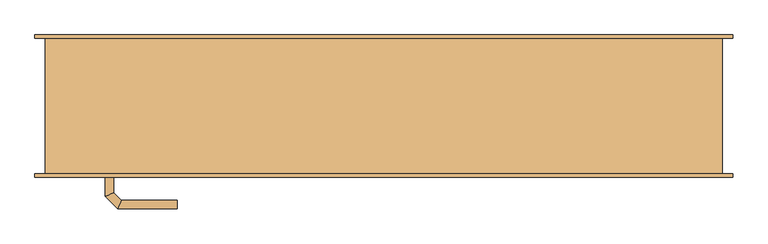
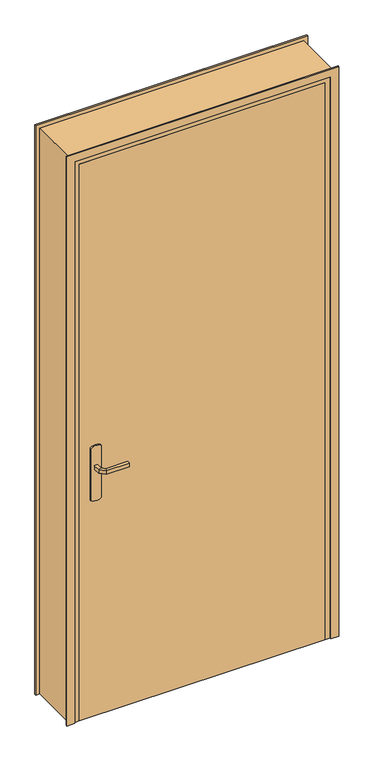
"""IFC4 building model written with IfcOpenShell, lengths in millimetres: door geometry, @_Int. Simple : @_PP (0.93m x 2.25)."""

from ifc_helpers import new_model, si_unit, point, frame, frame_2d, origin, origin_with_axes, place, context, project, spatial, polyline, circle_curve, ellipse_curve, trimmed, segment, composite_curve, outline, extrude, faceted_brep, source, transform, mapped, element, save
from ifc_brep_helpers import plane_surface, cylinder_surface, advanced_brep


def door_82d9676e(model_context):
    return source(origin(), model_context, "Body", "SolidModel", [
        extrude(outline(composite_curve([segment(trimmed(circle_curve(frame_2d((904.6410162, -440.0)), 40.0), [point((870.0, -460.0))], [point((870.0, -420.0))], False, "CARTESIAN"), True, "CONTINUOUS"), segment(polyline([(870.0, -420.0), (1080.0, -420.0)]), True, "CONTINUOUS"), segment(trimmed(circle_curve(frame_2d((1045.3589838, -440.0)), 40.0), [point((1080.0, -420.0))], [point((1080.0, -460.0))], False, "CARTESIAN"), True, "CONTINUOUS"), segment(polyline([(1080.0, -460.0), (870.0, -460.0)]), True, "CONTINUOUS")], self_intersect=False)), frame((0.0, -105.0, 0.0), z_axis=(0.0, 1.0, 0.0), x_axis=(0.0, 0.0, 1.0)), (0.0, 0.0, 1.0), 5.0),
        extrude(outline(composite_curve([segment(trimmed(circle_curve(frame_2d((1045.3589838, -440.0)), 40.0), [point((1080.0, -420.0))], [point((1080.0, -460.0))], False, "CARTESIAN"), True, "CONTINUOUS"), segment(polyline([(1080.0, -460.0), (870.0, -460.0)]), True, "CONTINUOUS"), segment(trimmed(circle_curve(frame_2d((904.6410162, -440.0)), 40.0), [point((870.0, -460.0))], [point((870.0, -420.0))], False, "CARTESIAN"), True, "CONTINUOUS"), segment(polyline([(870.0, -420.0), (1080.0, -420.0)]), True, "CONTINUOUS")], self_intersect=False)), frame((0.0, -60.0, 0.0), z_axis=(0.0, 1.0, 0.0), x_axis=(0.0, 0.0, 1.0)), (0.0, 0.0, 1.0), 5.0),
        advanced_brep(
        [(-446.0, -105.0, 1007.0), (-434.0, -105.0, 1007.0), (-434.0, -105.0, 993.0), (-446.0, -105.0, 993.0), (-446.0, -132.6509507, 1007.0), (-434.0, -127.680388, 1007.0), (-434.0, -127.680388, 993.0), (-446.0, -132.6509507, 993.0), (-427.62279, -151.0281607, 1007.0), (-422.6522273, -139.0281607, 1007.0), (-422.6522273, -139.0281607, 993.0), (-427.62279, -151.0281607, 993.0), (-339.9813594, -151.0281607, 1007.0), (-339.9813594, -151.0281607, 993.0), (-339.9813594, -139.0281607, 993.0), (-339.9813594, -139.0281607, 1007.0)],
        [
            (0, 1, circle_curve(frame((-440.0, -105.0, 986.9542278), z_axis=(0.0, 1.0, 0.0), x_axis=(1.0, 0.0, 0.0)), 20.9244589)),
            (1, 2),
            (2, 3, circle_curve(frame((-440.0, -105.0, 1013.0457722), z_axis=(0.0, 1.0, 0.0), x_axis=(1.0, 0.0, 0.0)), 20.9244589)),
            (3, 0),
            (0, 4),
            (4, 5, ellipse_curve(frame((-440.0, -130.1656693, 986.9542278), z_axis=(-0.3826834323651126, 0.9238795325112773, 0.0), x_axis=(0.9238795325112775, 0.38268343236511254, 0.0)), 22.6484711, 20.9244589)),
            (5, 1),
            (5, 6),
            (6, 2),
            (6, 7, ellipse_curve(frame((-440.0, -130.1656693, 1013.0457722), z_axis=(-0.3826834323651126, 0.9238795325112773, 0.0), x_axis=(0.9238795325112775, 0.38268343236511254, 0.0)), 22.6484711, 20.9244589)),
            (7, 3),
            (7, 4),
            (4, 8),
            (8, 9, ellipse_curve(frame((-425.1375086, -145.0281607, 986.9542278), z_axis=(-0.9238795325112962, 0.38268343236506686, 0.0), x_axis=(0.3826834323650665, 0.9238795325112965, 0.0)), 22.6484711, 20.9244589)),
            (9, 5),
            (9, 10),
            (10, 6),
            (10, 11, ellipse_curve(frame((-425.1375086, -145.0281607, 1013.0457722), z_axis=(-0.9238795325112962, 0.38268343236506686, 0.0), x_axis=(0.3826834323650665, 0.9238795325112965, 0.0)), 22.6484711, 20.9244589)),
            (11, 7),
            (11, 8),
            (12, 13),
            (13, 14, circle_curve(frame((-339.9813594, -145.0281607, 1013.0457722), z_axis=(1.0, 0.0, 0.0), x_axis=(0.0, 1.0, 0.0)), 20.9244589)),
            (14, 15),
            (15, 12, circle_curve(frame((-339.9813594, -145.0281607, 986.9542278), z_axis=(1.0, 0.0, 0.0), x_axis=(0.0, 1.0, 0.0)), 20.9244589)),
            (8, 12),
            (15, 9),
            (14, 10),
            (13, 11),
        ],
        [
            plane_surface(frame((-449.2195445, -105.0, 1000.0), z_axis=(0.0, 1.0, 0.0), x_axis=(0.0, 0.0, -1.0))),
            cylinder_surface(frame((-440.0, -105.0, 986.9542278), z_axis=(0.0, 1.0, 0.0), x_axis=(1.0, 0.0, 0.0)), 20.9244589),
            plane_surface(frame((-434.0, -105.0, 1007.0), z_axis=(1.0, 0.0, 0.0), x_axis=(0.0, -1.0, 0.0))),
            cylinder_surface(frame((-440.0, -105.0, 1013.0457722), z_axis=(0.0, 1.0, 0.0), x_axis=(1.0, 0.0, 0.0)), 20.9244589),
            plane_surface(frame((-446.0, -105.0, 993.0), z_axis=(-1.0, 0.0, 0.0), x_axis=(0.0, -1.0, 0.0))),
            cylinder_surface(frame((-440.0, -130.1656693, 986.9542278), z_axis=(-0.7071067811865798, 0.7071067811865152, 0.0), x_axis=(0.7071067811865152, 0.7071067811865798, 0.0)), 20.9244589),
            plane_surface(frame((-434.0, -127.680388, 1007.0), z_axis=(0.7071067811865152, 0.7071067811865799, 0.0), x_axis=(0.7071067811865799, -0.7071067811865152, 0.0))),
            cylinder_surface(frame((-440.0, -130.1656693, 1013.0457722), z_axis=(-0.7071067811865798, 0.7071067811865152, 0.0), x_axis=(0.7071067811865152, 0.7071067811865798, 0.0)), 20.9244589),
            plane_surface(frame((-446.0, -132.6509507, 993.0), z_axis=(-0.7071067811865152, -0.7071067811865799, 0.0), x_axis=(0.7071067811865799, -0.7071067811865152, 0.0))),
            plane_surface(frame((-339.9813594, -145.0281607, 990.7804555), z_axis=(1.0, 0.0, 0.0), x_axis=(0.0, 1.0, 0.0))),
            cylinder_surface(frame((-425.1375086, -145.0281607, 986.9542278), z_axis=(-1.0, 0.0, 0.0), x_axis=(0.0, 1.0, 0.0)), 20.9244589),
            plane_surface(frame((-422.6522273, -139.0281607, 1007.0), z_axis=(0.0, 1.0, 0.0), x_axis=(1.0, 0.0, 0.0))),
            cylinder_surface(frame((-425.1375086, -145.0281607, 1013.0457722), z_axis=(-1.0, 0.0, 0.0), x_axis=(0.0, 1.0, 0.0)), 20.9244589),
            plane_surface(frame((-427.62279, -151.0281607, 993.0), z_axis=(0.0, -1.0, 0.0), x_axis=(1.0, 0.0, 0.0))),
        ],
        [
            (0, [[1, 2, 3, 4]]),
            (1, [[-1, 5, 6, 7]]),
            (2, [[-2, -7, 8, 9]]),
            (3, [[-3, -9, 10, 11]]),
            (4, [[-4, -11, 12, -5]]),
            (5, [[-6, 13, 14, 15]]),
            (6, [[-8, -15, 16, 17]]),
            (7, [[-10, -17, 18, 19]]),
            (8, [[-12, -19, 20, -13]]),
            (9, [[21, 22, 23, 24]]),
            (10, [[-14, 25, -24, 26]]),
            (11, [[-16, -26, -23, 27]]),
            (12, [[-18, -27, -22, 28]]),
            (13, [[-20, -28, -21, -25]]),
        ],
    ),
        advanced_brep(
        [(-434.0, -55.0, 993.0), (-434.0, -55.0, 1007.0), (-446.0, -55.0, 1007.0), (-446.0, -55.0, 993.0), (-434.0, -32.5147955, 993.0), (-434.0, -32.5147955, 1007.0), (-446.0, -27.5442327, 1007.0), (-446.0, -27.5442327, 993.0), (-422.5147186, -21.0295141, 993.0), (-422.5147186, -21.0295141, 1007.0), (-427.4852814, -9.0295141, 1007.0), (-427.4852814, -9.0295141, 993.0), (-339.9542163, -21.0295141, 993.0), (-339.9542163, -9.0295141, 993.0), (-339.9542163, -9.0295141, 1007.0), (-339.9542163, -21.0295141, 1007.0)],
        [
            (0, 1),
            (1, 2, circle_curve(frame((-440.0, -55.0, 986.9542278), z_axis=(0.0, -1.0, 0.0), x_axis=(-1.0, 0.0, 0.0)), 20.9244589)),
            (2, 3),
            (3, 0, circle_curve(frame((-440.0, -55.0, 1013.0457722), z_axis=(0.0, -1.0, 0.0), x_axis=(-1.0, 0.0, 0.0)), 20.9244589)),
            (0, 4),
            (4, 5),
            (5, 1),
            (5, 6, ellipse_curve(frame((-440.0, -30.0295141, 986.9542278), z_axis=(-0.3826834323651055, -0.9238795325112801, 0.0), x_axis=(0.9238795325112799, -0.3826834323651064, 0.0)), 22.6484711, 20.9244589)),
            (6, 2),
            (6, 7),
            (7, 3),
            (7, 4, ellipse_curve(frame((-440.0, -30.0295141, 1013.0457722), z_axis=(-0.3826834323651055, -0.9238795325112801, 0.0), x_axis=(0.9238795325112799, -0.3826834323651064, 0.0)), 22.6484711, 20.9244589)),
            (4, 8),
            (8, 9),
            (9, 5),
            (9, 10, ellipse_curve(frame((-425.0, -15.0295141, 986.9542278), z_axis=(-0.9238795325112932, -0.382683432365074, 0.0), x_axis=(0.3826834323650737, -0.9238795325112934, 0.0)), 22.6484711, 20.9244589)),
            (10, 6),
            (10, 11),
            (11, 7),
            (11, 8, ellipse_curve(frame((-425.0, -15.0295141, 1013.0457722), z_axis=(-0.9238795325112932, -0.382683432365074, 0.0), x_axis=(0.3826834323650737, -0.9238795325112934, 0.0)), 22.6484711, 20.9244589)),
            (12, 13, circle_curve(frame((-339.9542163, -15.0295141, 1013.0457722), z_axis=(1.0, 0.0, 0.0), x_axis=(0.0, 1.0, 0.0)), 20.9244589)),
            (13, 14),
            (14, 15, circle_curve(frame((-339.9542163, -15.0295141, 986.9542278), z_axis=(1.0, 0.0, 0.0), x_axis=(0.0, 1.0, 0.0)), 20.9244589)),
            (15, 12),
            (8, 12),
            (15, 9),
            (14, 10),
            (13, 11),
        ],
        [
            plane_surface(frame((-449.2195445, -55.0, 1000.0), z_axis=(0.0, -1.0, 0.0), x_axis=(0.0, 0.0, 1.0))),
            plane_surface(frame((-434.0, -55.0, 993.0), z_axis=(1.0, 0.0, 0.0), x_axis=(0.0, 1.0, 0.0))),
            cylinder_surface(frame((-440.0, -55.0, 986.9542278), z_axis=(0.0, -1.0, 0.0), x_axis=(-1.0, 0.0, 0.0)), 20.9244589),
            plane_surface(frame((-446.0, -55.0, 1007.0), z_axis=(-1.0, 0.0, 0.0), x_axis=(0.0, 1.0, 0.0))),
            cylinder_surface(frame((-440.0, -55.0, 1013.0457722), z_axis=(0.0, -1.0, 0.0), x_axis=(-1.0, 0.0, 0.0)), 20.9244589),
            plane_surface(frame((-434.0, -32.5147955, 993.0), z_axis=(0.7071067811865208, -0.7071067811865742, 0.0), x_axis=(0.7071067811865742, 0.7071067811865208, 0.0))),
            cylinder_surface(frame((-440.0, -30.0295141, 986.9542278), z_axis=(-0.7071067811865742, -0.7071067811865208, 0.0), x_axis=(-0.7071067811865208, 0.7071067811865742, 0.0)), 20.9244589),
            plane_surface(frame((-446.0, -27.5442327, 1007.0), z_axis=(-0.7071067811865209, 0.7071067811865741, 0.0), x_axis=(0.7071067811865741, 0.7071067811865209, 0.0))),
            cylinder_surface(frame((-440.0, -30.0295141, 1013.0457722), z_axis=(-0.7071067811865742, -0.7071067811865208, 0.0), x_axis=(-0.7071067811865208, 0.7071067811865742, 0.0)), 20.9244589),
            plane_surface(frame((-339.9542163, -15.0295141, 990.7804555), z_axis=(1.0, 0.0, 0.0), x_axis=(0.0, 1.0, 0.0))),
            plane_surface(frame((-422.5147186, -21.0295141, 993.0), z_axis=(0.0, -1.0, 0.0), x_axis=(1.0, 0.0, 0.0))),
            cylinder_surface(frame((-425.0, -15.0295141, 986.9542278), z_axis=(-1.0, 0.0, 0.0), x_axis=(0.0, 1.0, 0.0)), 20.9244589),
            plane_surface(frame((-427.4852814, -9.0295141, 1007.0), z_axis=(0.0, 1.0, 0.0), x_axis=(1.0, 0.0, 0.0))),
            cylinder_surface(frame((-425.0, -15.0295141, 1013.0457722), z_axis=(-1.0, 0.0, 0.0), x_axis=(0.0, 1.0, 0.0)), 20.9244589),
        ],
        [
            (0, [[1, 2, 3, 4]]),
            (1, [[-1, 5, 6, 7]]),
            (2, [[-2, -7, 8, 9]]),
            (3, [[-3, -9, 10, 11]]),
            (4, [[-4, -11, 12, -5]]),
            (5, [[-6, 13, 14, 15]]),
            (6, [[-8, -15, 16, 17]]),
            (7, [[-10, -17, 18, 19]]),
            (8, [[-12, -19, 20, -13]]),
            (9, [[21, 22, 23, 24]]),
            (10, [[-14, 25, -24, 26]]),
            (11, [[-16, -26, -23, 27]]),
            (12, [[-18, -27, -22, 28]]),
            (13, [[-20, -28, -21, -25]]),
        ],
    ),
        extrude(outline(polyline([(-500.0, -60.0), (430.0, -60.0), (430.0, -100.0), (-500.0, -100.0), (-500.0, -60.0)])), origin_with_axes(), (0.0, 0.0, 1.0), 2230.0),
        faceted_brep([(-535.0, -100.0, 0.0), (-535.0, 100.0, 0.0), (-485.0, 100.0, 0.0), (-485.0, -60.0, 0.0), (-500.0, -60.0, 0.0), (-500.0, -100.0, 0.0), (-535.0, -100.0, 2265.0), (-535.0, 100.0, 2265.0), (465.0, 100.0, 2265.0), (465.0, 100.0, 0.0), (415.0, 100.0, 0.0), (415.0, 100.0, 2215.0), (-485.0, 100.0, 2215.0), (-485.0, -60.0, 2215.0), (415.0, -60.0, 2215.0), (415.0, -60.0, 0.0), (430.0, -60.0, 0.0), (430.0, -60.0, 2230.0), (-500.0, -60.0, 2230.0), (-500.0, -100.0, 2230.0), (430.0, -100.0, 2230.0), (430.0, -100.0, 0.0), (465.0, -100.0, 0.0), (465.0, -100.0, 2265.0)], [[[0, 1, 2, 3, 4, 5]], [[1, 0, 6, 7]], [[2, 1, 7, 8, 9, 10, 11, 12]], [[3, 2, 12, 13]], [[4, 3, 13, 14, 15, 16, 17, 18]], [[5, 4, 18, 19]], [[0, 5, 19, 20, 21, 22, 23, 6]], [[8, 23, 22, 9]], [[22, 21, 16, 15, 10, 9]], [[14, 11, 10, 15]], [[20, 17, 16, 21]], [[7, 6, 23, 8]], [[13, 12, 11, 14]], [[19, 18, 17, 20]]]),
        extrude(outline(polyline([(0.0, -550.0), (0.0, -520.0), (2250.0, -520.0), (2250.0, 450.0), (0.0, 450.0), (0.0, 480.0), (2280.0, 480.0), (2280.0, -550.0), (0.0, -550.0)])), frame((0.0, -105.0, 0.0), z_axis=(0.0, 1.0, 0.0), x_axis=(0.0, 0.0, 1.0)), (0.0, 0.0, 1.0), 5.0),
        extrude(outline(polyline([(0.0, -550.0), (0.0, -520.0), (2250.0, -520.0), (2250.0, 450.0), (0.0, 450.0), (0.0, 480.0), (2280.0, 480.0), (2280.0, -550.0), (0.0, -550.0)])), frame((0.0, 100.0, 0.0), z_axis=(0.0, 1.0, 0.0), x_axis=(0.0, 0.0, 1.0)), (0.0, 0.0, 1.0), 5.0),
    ])


if __name__ == "__main__":
    model = new_model("IFC4")
    model_context = context("Model", 3, world=origin())
    ifc_project = project(units=[si_unit("LENGTHUNIT", "METRE", prefix="MILLI")], contexts=[model_context])
    site = spatial("IfcSite", under=ifc_project)
    building = spatial("IfcBuilding", under=site)
    placement = place(None, origin())
    door_shape = door_82d9676e(model_context)
    element("IfcDoor", 1, ObjectType="@_Int. Simple : @_PP (0.93m x 2.25)", at=placement, inside=building, context=model_context, shape_type="MappedRepresentation", body=[
        mapped(door_shape, transform((0.0, 0.0, 0.0), x_axis=(1.0, 0.0, 0.0), y_axis=(0.0, 1.0, 0.0), z_axis=(0.0, 0.0, 1.0))),
    ])
    save(model, "model.ifc")
